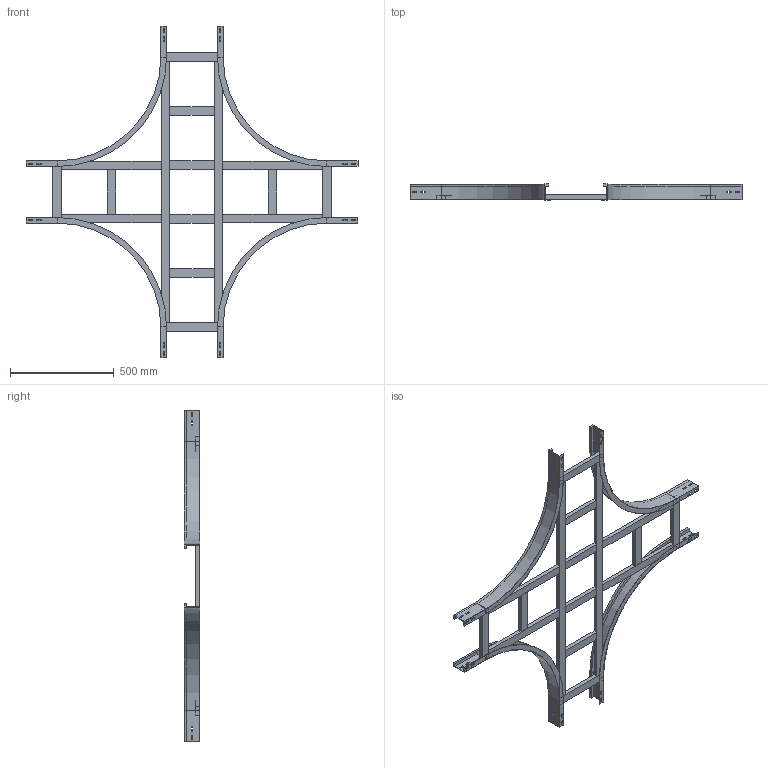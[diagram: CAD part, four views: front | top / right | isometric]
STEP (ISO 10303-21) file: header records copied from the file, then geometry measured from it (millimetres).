
FILE_DESCRIPTION (( 'STEP AP214' ), '1' );
FILE_NAME ('17B5C300.step', '2025-02-21T15:57:44', ( '' ), ( '' ), 'SwSTEP 2.0', 'SolidWorks 2023', '' );
FILE_SCHEMA (( 'AUTOMOTIVE_DESIGN' ));
Length unit declared in the file: millimetre
Products named in the file (7): TRAVERSINO_COPPIA_300; TRAVERSINO_LONG._R500+300; 17B5C300; LONGH.INTERNO 90°_H75_R500; TRAVERSINO_300; TRAVERSINO_VERT_R500; TRAVERSINO_INTERMEDIO_R500+300
Assembly tree (20 placements, depth 2):
  17B5C300
    LONGH.INTERNO 90°_H75_R500  x4
    TRAVERSINO_300  x4
    TRAVERSINO_LONG._R500+300  x2
    TRAVERSINO_INTERMEDIO_R500+300  x4
    TRAVERSINO_VERT_R500  x4
    TRAVERSINO_COPPIA_300  x2
Bounding box: 1600 x 75 x 1600 mm (x, y, z)
Volume: 7314809.8 mm3; surface area: 1893901.9 mm2
Topology: 20 solids, 20 shells, 328 faces, 800 edges, 512 vertices
Faces by surface type: plane 312, cylinder 16
Entity records: 2860 total; most frequent: CARTESIAN_POINT 459, DIRECTION 442, ORIENTED_EDGE 424, EDGE_CURVE 212, VECTOR 204, LINE 204, VERTEX_POINT 136, AXIS2_PLACEMENT_3D 119
